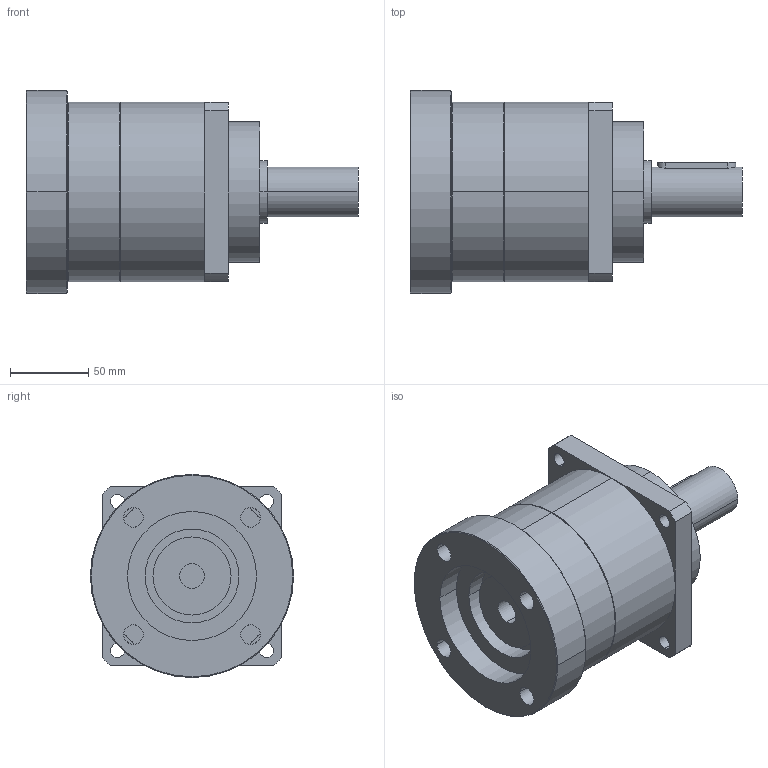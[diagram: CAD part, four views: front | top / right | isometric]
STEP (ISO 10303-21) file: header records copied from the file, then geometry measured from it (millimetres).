
FILE_DESCRIPTION(('CoCreate Modeling STEP Export'),'2;1');
FILE_NAME('GPT120_ig-3-4-5-7-10_32_B5A_15.87_P21.stp','2015-02-04T16:07:59',(''),(''),'CoCreate Modeling STEP processor for AP214 (Solid Model)','CoCreate Modeling 16.00C 25-Feb-2009 (C) Parametric Technology GmbH','');
FILE_SCHEMA(('AUTOMOTIVE_DESIGN { 1 0 10303 214 1 1 1 1 }'));
Length unit declared in the file: millimetre
Products named in the file (2): GPT120_ig-3-4-5-7-10_32_B5A_15.87_P21
Assembly tree (1 placements, depth 2):
  GPT120_ig-3-4-5-7-10_32_B5A_15.87_P21
    GPT120_ig-3-4-5-7-10_32_B5A_15.87_P21
Bounding box: 212.5 x 130 x 130 mm (x, y, z)
Volume: 1520570.5 mm3; surface area: 108939.7 mm2
Topology: 1 solids, 1 shells, 79 faces, 205 edges, 134 vertices
Faces by surface type: cylinder 44, plane 27, cone 8
Entity records: 2499 total; most frequent: CARTESIAN_POINT 740, ORIENTED_EDGE 410, DIRECTION 302, EDGE_CURVE 205, VERTEX_POINT 134, AXIS2_PLACEMENT_3D 114, EDGE_LOOP 101, FACE_OUTER_BOUND 79
